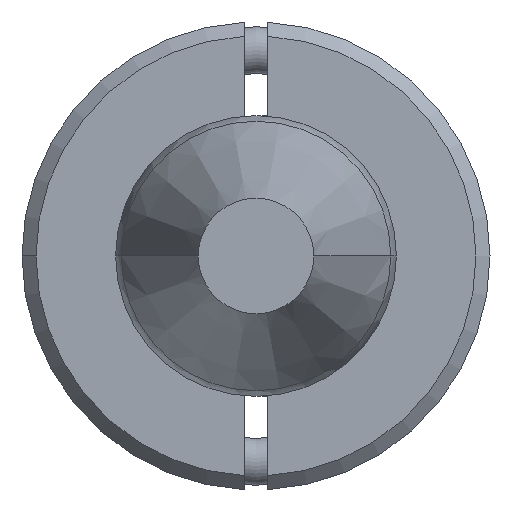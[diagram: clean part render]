
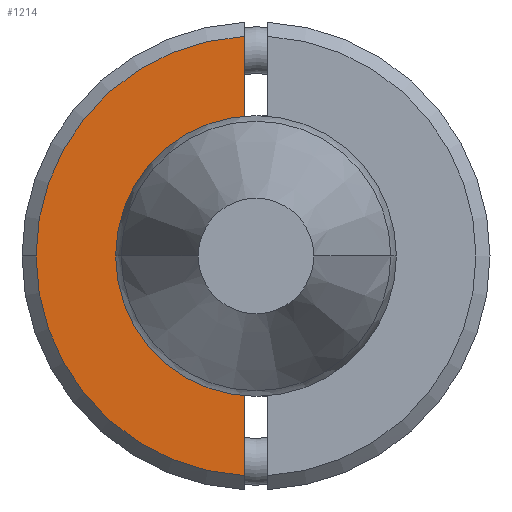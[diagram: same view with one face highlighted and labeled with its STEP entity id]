
A CAD part, front view. The second image highlights one B-rep face of the part: STEP entity #1214.
In plain terms, the highlighted planar face has unit normal (0, -1, 0).
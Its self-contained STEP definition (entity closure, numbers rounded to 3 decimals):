
#81 = CARTESIAN_POINT ( 'NONE',  ( -5., -6., 0.25 ) ) ;
#93 = VECTOR ( 'NONE', #3008, 1000. ) ;
#133 = AXIS2_PLACEMENT_3D ( 'NONE', #1566, #710, #1914 ) ;
#243 = FACE_OUTER_BOUND ( 'NONE', #3468, .T. ) ;
#311 = AXIS2_PLACEMENT_3D ( 'NONE', #1366, #1069, #2881 ) ;
#380 = CARTESIAN_POINT ( 'NONE',  ( -4.693, -6., 0.25 ) ) ;
#506 = VERTEX_POINT ( 'NONE', #380 ) ;
#621 = CIRCLE ( 'NONE', #133, 2.45 ) ;
#704 = CARTESIAN_POINT ( 'NONE',  ( -2.437, -6., 0.25 ) ) ;
#710 = DIRECTION ( 'NONE',  ( 0., 1., 0. ) ) ;
#805 = VERTEX_POINT ( 'NONE', #3783 ) ;
#838 = ORIENTED_EDGE ( 'NONE', *, *, #3625, .T. ) ;
#901 = VECTOR ( 'NONE', #3635, 1000. ) ;
#978 = VERTEX_POINT ( 'NONE', #2423 ) ;
#1013 = CARTESIAN_POINT ( 'NONE',  ( 0., -6., 0. ) ) ;
#1043 = DIRECTION ( 'NONE',  ( 0., 0., -1. ) ) ;
#1063 = CARTESIAN_POINT ( 'NONE',  ( 0., -6., 0. ) ) ;
#1069 = DIRECTION ( 'NONE',  ( 0., -1., 0. ) ) ;
#1214 = ADVANCED_FACE ( 'NONE', ( #243 ), #2629, .T. ) ;
#1292 = CARTESIAN_POINT ( 'NONE',  ( 0., -6., 4.7 ) ) ;
#1366 = CARTESIAN_POINT ( 'NONE',  ( -5., -6., 0. ) ) ;
#1558 = LINE ( 'NONE', #81, #93 ) ;
#1566 = CARTESIAN_POINT ( 'NONE',  ( 0., -6., 0. ) ) ;
#1626 = CIRCLE ( 'NONE', #2940, 4.7 ) ;
#1857 = CARTESIAN_POINT ( 'NONE',  ( -5., -6., 0.25 ) ) ;
#1914 = DIRECTION ( 'NONE',  ( 0., 0., -1. ) ) ;
#1920 = ORIENTED_EDGE ( 'NONE', *, *, #3260, .T. ) ;
#2003 = DIRECTION ( 'NONE',  ( 0., -1., 0. ) ) ;
#2169 = VERTEX_POINT ( 'NONE', #1292 ) ;
#2213 = ORIENTED_EDGE ( 'NONE', *, *, #2472, .F. ) ;
#2373 = ORIENTED_EDGE ( 'NONE', *, *, #3531, .F. ) ;
#2418 = ORIENTED_EDGE ( 'NONE', *, *, #3285, .T. ) ;
#2423 = CARTESIAN_POINT ( 'NONE',  ( 4.693, -6., 0.25 ) ) ;
#2472 = EDGE_CURVE ( 'NONE', #978, #805, #1558, .T. ) ;
#2622 = DIRECTION ( 'NONE',  ( 0., -1., 0. ) ) ;
#2629 = PLANE ( 'NONE',  #311 ) ;
#2881 = DIRECTION ( 'NONE',  ( 0., 0., -1. ) ) ;
#2940 = AXIS2_PLACEMENT_3D ( 'NONE', #1063, #2622, #1043 ) ;
#3008 = DIRECTION ( 'NONE',  ( -1., 0., 0. ) ) ;
#3155 = CIRCLE ( 'NONE', #3478, 4.7 ) ;
#3260 = EDGE_CURVE ( 'NONE', #3509, #805, #621, .T. ) ;
#3285 = EDGE_CURVE ( 'NONE', #978, #2169, #1626, .T. ) ;
#3468 = EDGE_LOOP ( 'NONE', ( #2213, #2418, #838, #2373, #1920 ) ) ;
#3478 = AXIS2_PLACEMENT_3D ( 'NONE', #1013, #2003, #3706 ) ;
#3509 = VERTEX_POINT ( 'NONE', #704 ) ;
#3531 = EDGE_CURVE ( 'NONE', #3509, #506, #3654, .T. ) ;
#3625 = EDGE_CURVE ( 'NONE', #2169, #506, #3155, .T. ) ;
#3635 = DIRECTION ( 'NONE',  ( -1., 0., 0. ) ) ;
#3654 = LINE ( 'NONE', #1857, #901 ) ;
#3706 = DIRECTION ( 'NONE',  ( 0., 0., -1. ) ) ;
#3783 = CARTESIAN_POINT ( 'NONE',  ( 2.437, -6., 0.25 ) ) ;
